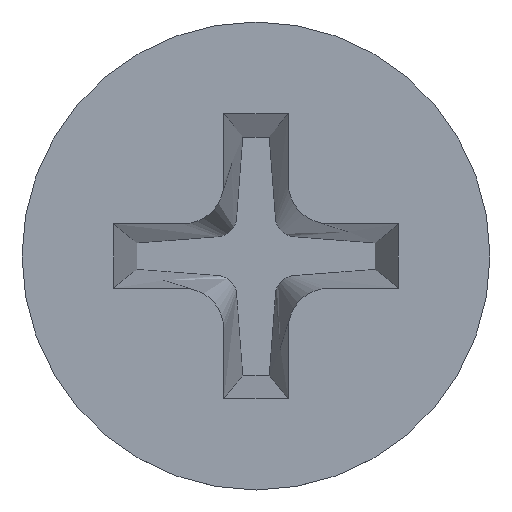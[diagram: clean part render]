
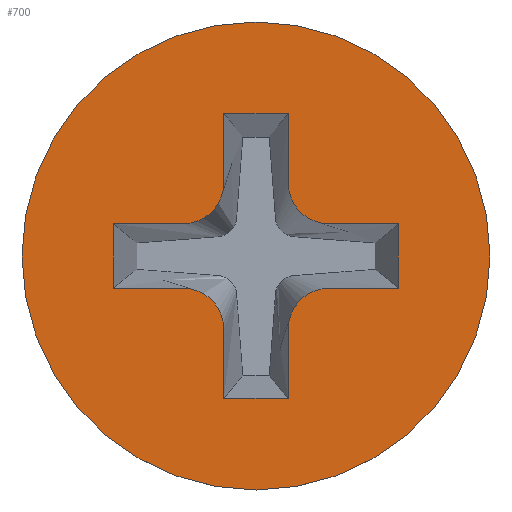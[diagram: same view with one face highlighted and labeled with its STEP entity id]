
A CAD part, top view. The second image highlights one B-rep face of the part: STEP entity #700.
In plain terms, the highlighted planar face has unit normal (0, 0, 1).
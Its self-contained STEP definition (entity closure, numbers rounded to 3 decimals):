
#8 = LINE ( 'NONE', #249, #256 ) ;
#11 = EDGE_CURVE ( 'NONE', #342, #708, #34, .T. ) ;
#12 = CARTESIAN_POINT ( 'NONE',  ( 4., 0., 2.3 ) ) ;
#18 = DIRECTION ( 'NONE',  ( 1., 0., 0. ) ) ;
#19 = EDGE_CURVE ( 'NONE', #28, #544, #339, .T. ) ;
#28 = VERTEX_POINT ( 'NONE', #293 ) ;
#34 = CIRCLE ( 'NONE', #753, 0.7 ) ;
#36 = EDGE_CURVE ( 'NONE', #109, #454, #47, .T. ) ;
#42 = DIRECTION ( 'NONE',  ( 1., 0., 0. ) ) ;
#45 = CARTESIAN_POINT ( 'NONE',  ( 0.55, -2.435, 2.3 ) ) ;
#47 = LINE ( 'NONE', #598, #675 ) ;
#52 = EDGE_CURVE ( 'NONE', #708, #634, #547, .T. ) ;
#53 = DIRECTION ( 'NONE',  ( 1., 0., 0. ) ) ;
#61 = EDGE_CURVE ( 'NONE', #454, #384, #422, .T. ) ;
#77 = DIRECTION ( 'NONE',  ( -1., 0., 0. ) ) ;
#78 = CARTESIAN_POINT ( 'NONE',  ( 0.55, -2.435, 2.3 ) ) ;
#80 = EDGE_CURVE ( 'NONE', #201, #342, #409, .T. ) ;
#81 = LINE ( 'NONE', #189, #234 ) ;
#83 = ORIENTED_EDGE ( 'NONE', *, *, #466, .F. ) ;
#86 = VERTEX_POINT ( 'NONE', #78 ) ;
#88 = DIRECTION ( 'NONE',  ( 1., 0., 0. ) ) ;
#90 = ORIENTED_EDGE ( 'NONE', *, *, #446, .F. ) ;
#92 = CARTESIAN_POINT ( 'NONE',  ( 0., 0., 2.3 ) ) ;
#96 = CARTESIAN_POINT ( 'NONE',  ( 0.55, -2.435, 2.3 ) ) ;
#104 = CARTESIAN_POINT ( 'NONE',  ( -1.25, 1.25, 2.3 ) ) ;
#109 = VERTEX_POINT ( 'NONE', #502 ) ;
#110 = DIRECTION ( 'NONE',  ( 0., 0., -1. ) ) ;
#124 = VERTEX_POINT ( 'NONE', #367 ) ;
#129 = ORIENTED_EDGE ( 'NONE', *, *, #554, .F. ) ;
#131 = CARTESIAN_POINT ( 'NONE',  ( 0.55, 2.435, 2.3 ) ) ;
#138 = LINE ( 'NONE', #131, #696 ) ;
#148 = ORIENTED_EDGE ( 'NONE', *, *, #61, .F. ) ;
#149 = VECTOR ( 'NONE', #18, 1000. ) ;
#152 = CARTESIAN_POINT ( 'NONE',  ( 0.55, 1.25, 2.3 ) ) ;
#155 = ORIENTED_EDGE ( 'NONE', *, *, #290, .T. ) ;
#161 = AXIS2_PLACEMENT_3D ( 'NONE', #236, #110, #53 ) ;
#162 = AXIS2_PLACEMENT_3D ( 'NONE', #636, #632, #697 ) ;
#164 = ORIENTED_EDGE ( 'NONE', *, *, #767, .F. ) ;
#173 = CARTESIAN_POINT ( 'NONE',  ( -0.55, -1.25, 2.3 ) ) ;
#185 = VECTOR ( 'NONE', #564, 1000. ) ;
#188 = CARTESIAN_POINT ( 'NONE',  ( 1.25, -0.55, 2.3 ) ) ;
#189 = CARTESIAN_POINT ( 'NONE',  ( -2.435, 0.55, 2.3 ) ) ;
#197 = EDGE_CURVE ( 'NONE', #471, #784, #212, .T. ) ;
#201 = VERTEX_POINT ( 'NONE', #719 ) ;
#212 = CIRCLE ( 'NONE', #754, 4. ) ;
#216 = ORIENTED_EDGE ( 'NONE', *, *, #52, .F. ) ;
#217 = ORIENTED_EDGE ( 'NONE', *, *, #405, .F. ) ;
#225 = FACE_OUTER_BOUND ( 'NONE', #590, .T. ) ;
#231 = CARTESIAN_POINT ( 'NONE',  ( -2.435, 0.55, 2.3 ) ) ;
#234 = VECTOR ( 'NONE', #434, 1000. ) ;
#236 = CARTESIAN_POINT ( 'NONE',  ( 1.25, -1.25, 2.3 ) ) ;
#244 = CIRCLE ( 'NONE', #608, 0.7 ) ;
#249 = CARTESIAN_POINT ( 'NONE',  ( 2.435, -0.55, 2.3 ) ) ;
#253 = EDGE_CURVE ( 'NONE', #544, #377, #244, .T. ) ;
#256 = VECTOR ( 'NONE', #578, 1000. ) ;
#268 = CARTESIAN_POINT ( 'NONE',  ( 0., 0., 2.3 ) ) ;
#274 = VERTEX_POINT ( 'NONE', #152 ) ;
#286 = DIRECTION ( 'NONE',  ( 0., 1., 0. ) ) ;
#290 = EDGE_CURVE ( 'NONE', #784, #471, #563, .T. ) ;
#293 = CARTESIAN_POINT ( 'NONE',  ( -0.55, 2.435, 2.3 ) ) ;
#294 = DIRECTION ( 'NONE',  ( 1., 0., 0. ) ) ;
#295 = CARTESIAN_POINT ( 'NONE',  ( -1.25, 0.55, 2.3 ) ) ;
#302 = EDGE_CURVE ( 'NONE', #86, #647, #735, .T. ) ;
#318 = ORIENTED_EDGE ( 'NONE', *, *, #718, .F. ) ;
#326 = ORIENTED_EDGE ( 'NONE', *, *, #435, .F. ) ;
#339 = LINE ( 'NONE', #808, #801 ) ;
#342 = VERTEX_POINT ( 'NONE', #425 ) ;
#367 = CARTESIAN_POINT ( 'NONE',  ( 0.55, 2.435, 2.3 ) ) ;
#374 = CARTESIAN_POINT ( 'NONE',  ( 2.435, 0.55, 2.3 ) ) ;
#377 = VERTEX_POINT ( 'NONE', #295 ) ;
#384 = VERTEX_POINT ( 'NONE', #487 ) ;
#405 = EDGE_CURVE ( 'NONE', #384, #274, #507, .T. ) ;
#407 = CARTESIAN_POINT ( 'NONE',  ( 0.55, -1.25, 2.3 ) ) ;
#408 = DIRECTION ( 'NONE',  ( 0., 1., 0. ) ) ;
#409 = LINE ( 'NONE', #440, #149 ) ;
#413 = DIRECTION ( 'NONE',  ( 0., -1., 0. ) ) ;
#422 = LINE ( 'NONE', #541, #635 ) ;
#425 = CARTESIAN_POINT ( 'NONE',  ( -1.25, -0.55, 2.3 ) ) ;
#433 = LINE ( 'NONE', #770, #185 ) ;
#434 = DIRECTION ( 'NONE',  ( 0., -1., 0. ) ) ;
#435 = EDGE_CURVE ( 'NONE', #124, #28, #138, .T. ) ;
#438 = CARTESIAN_POINT ( 'NONE',  ( -4., 0., 2.3 ) ) ;
#440 = CARTESIAN_POINT ( 'NONE',  ( -1.25, -0.55, 2.3 ) ) ;
#443 = LINE ( 'NONE', #702, #620 ) ;
#446 = EDGE_CURVE ( 'NONE', #377, #733, #443, .T. ) ;
#454 = VERTEX_POINT ( 'NONE', #374 ) ;
#466 = EDGE_CURVE ( 'NONE', #516, #109, #8, .T. ) ;
#467 = ORIENTED_EDGE ( 'NONE', *, *, #536, .F. ) ;
#469 = DIRECTION ( 'NONE',  ( 0., 0., 1. ) ) ;
#471 = VERTEX_POINT ( 'NONE', #12 ) ;
#473 = CARTESIAN_POINT ( 'NONE',  ( -0.55, -2.435, 2.3 ) ) ;
#479 = CARTESIAN_POINT ( 'NONE',  ( -0.55, -2.435, 2.3 ) ) ;
#487 = CARTESIAN_POINT ( 'NONE',  ( 1.25, 0.55, 2.3 ) ) ;
#498 = DIRECTION ( 'NONE',  ( -1., 0., 0. ) ) ;
#502 = CARTESIAN_POINT ( 'NONE',  ( 2.435, -0.55, 2.3 ) ) ;
#504 = CIRCLE ( 'NONE', #161, 0.7 ) ;
#507 = CIRCLE ( 'NONE', #162, 0.7 ) ;
#512 = ORIENTED_EDGE ( 'NONE', *, *, #302, .F. ) ;
#516 = VERTEX_POINT ( 'NONE', #188 ) ;
#536 = EDGE_CURVE ( 'NONE', #733, #201, #81, .T. ) ;
#541 = CARTESIAN_POINT ( 'NONE',  ( 2.435, 0.55, 2.3 ) ) ;
#544 = VERTEX_POINT ( 'NONE', #693 ) ;
#547 = LINE ( 'NONE', #479, #814 ) ;
#554 = EDGE_CURVE ( 'NONE', #634, #86, #591, .T. ) ;
#563 = CIRCLE ( 'NONE', #785, 4. ) ;
#564 = DIRECTION ( 'NONE',  ( 0., 1., 0. ) ) ;
#578 = DIRECTION ( 'NONE',  ( 1., 0., 0. ) ) ;
#581 = ORIENTED_EDGE ( 'NONE', *, *, #11, .F. ) ;
#590 = EDGE_LOOP ( 'NONE', ( #155, #763 ) ) ;
#591 = LINE ( 'NONE', #96, #765 ) ;
#597 = DIRECTION ( 'NONE',  ( 0., 0., 1. ) ) ;
#598 = CARTESIAN_POINT ( 'NONE',  ( 2.435, 0.55, 2.3 ) ) ;
#603 = DIRECTION ( 'NONE',  ( 1., 0., 0. ) ) ;
#608 = AXIS2_PLACEMENT_3D ( 'NONE', #104, #651, #803 ) ;
#612 = DIRECTION ( 'NONE',  ( 0., -1., 0. ) ) ;
#620 = VECTOR ( 'NONE', #498, 1000. ) ;
#622 = PLANE ( 'NONE',  #799 ) ;
#632 = DIRECTION ( 'NONE',  ( 0., 0., -1. ) ) ;
#634 = VERTEX_POINT ( 'NONE', #473 ) ;
#635 = VECTOR ( 'NONE', #682, 1000. ) ;
#636 = CARTESIAN_POINT ( 'NONE',  ( 1.25, 1.25, 2.3 ) ) ;
#644 = VECTOR ( 'NONE', #408, 1000. ) ;
#647 = VERTEX_POINT ( 'NONE', #407 ) ;
#651 = DIRECTION ( 'NONE',  ( 0., 0., -1. ) ) ;
#656 = EDGE_LOOP ( 'NONE', ( #318, #512, #129, #216, #581, #685, #467, #90, #728, #775, #326, #164, #217, #148, #713, #83 ) ) ;
#673 = CARTESIAN_POINT ( 'NONE',  ( -1.25, -1.25, 2.3 ) ) ;
#675 = VECTOR ( 'NONE', #286, 1000. ) ;
#682 = DIRECTION ( 'NONE',  ( -1., 0., 0. ) ) ;
#683 = DIRECTION ( 'NONE',  ( 0., 0., 1. ) ) ;
#685 = ORIENTED_EDGE ( 'NONE', *, *, #80, .F. ) ;
#693 = CARTESIAN_POINT ( 'NONE',  ( -0.55, 1.25, 2.3 ) ) ;
#696 = VECTOR ( 'NONE', #77, 1000. ) ;
#697 = DIRECTION ( 'NONE',  ( -1., 0., 0. ) ) ;
#700 = ADVANCED_FACE ( 'NONE', ( #745, #225 ), #622, .T. ) ;
#702 = CARTESIAN_POINT ( 'NONE',  ( -1.25, 0.55, 2.3 ) ) ;
#708 = VERTEX_POINT ( 'NONE', #173 ) ;
#713 = ORIENTED_EDGE ( 'NONE', *, *, #36, .F. ) ;
#718 = EDGE_CURVE ( 'NONE', #647, #516, #504, .T. ) ;
#719 = CARTESIAN_POINT ( 'NONE',  ( -2.435, -0.55, 2.3 ) ) ;
#728 = ORIENTED_EDGE ( 'NONE', *, *, #253, .F. ) ;
#732 = DIRECTION ( 'NONE',  ( 1., 0., 0. ) ) ;
#733 = VERTEX_POINT ( 'NONE', #231 ) ;
#735 = LINE ( 'NONE', #45, #644 ) ;
#745 = FACE_BOUND ( 'NONE', #656, .T. ) ;
#753 = AXIS2_PLACEMENT_3D ( 'NONE', #673, #795, #603 ) ;
#754 = AXIS2_PLACEMENT_3D ( 'NONE', #268, #597, #42 ) ;
#763 = ORIENTED_EDGE ( 'NONE', *, *, #197, .T. ) ;
#765 = VECTOR ( 'NONE', #88, 1000. ) ;
#767 = EDGE_CURVE ( 'NONE', #274, #124, #433, .T. ) ;
#770 = CARTESIAN_POINT ( 'NONE',  ( 0.55, 1.25, 2.3 ) ) ;
#775 = ORIENTED_EDGE ( 'NONE', *, *, #19, .F. ) ;
#784 = VERTEX_POINT ( 'NONE', #438 ) ;
#785 = AXIS2_PLACEMENT_3D ( 'NONE', #92, #469, #732 ) ;
#795 = DIRECTION ( 'NONE',  ( 0., 0., -1. ) ) ;
#799 = AXIS2_PLACEMENT_3D ( 'NONE', #813, #683, #294 ) ;
#801 = VECTOR ( 'NONE', #612, 1000. ) ;
#803 = DIRECTION ( 'NONE',  ( -1., 0., 0. ) ) ;
#808 = CARTESIAN_POINT ( 'NONE',  ( -0.55, 1.25, 2.3 ) ) ;
#813 = CARTESIAN_POINT ( 'NONE',  ( 0., 0., 2.3 ) ) ;
#814 = VECTOR ( 'NONE', #413, 1000. ) ;
